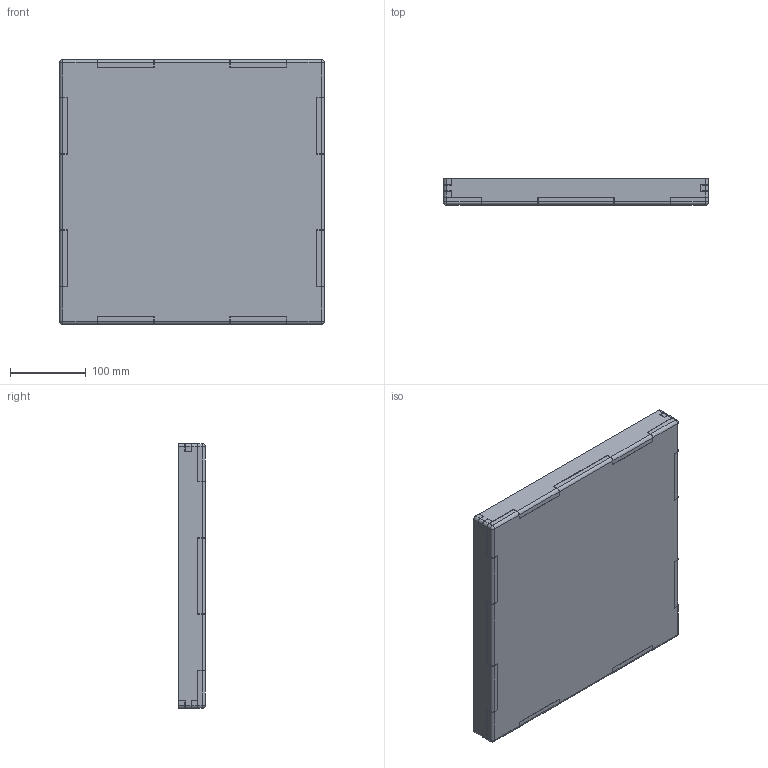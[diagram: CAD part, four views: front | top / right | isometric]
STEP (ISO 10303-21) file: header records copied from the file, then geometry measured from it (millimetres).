
FILE_DESCRIPTION (( 'STEP AP214' ), '1' );
FILE_NAME ('Ensamblaje Bandeja.STEP', '2020-11-28T16:15:50', ( '' ), ( '' ), 'SwSTEP 2.0', 'SolidWorks 2016', '' );
FILE_SCHEMA (( 'AUTOMOTIVE_DESIGN' ));
Length unit declared in the file: millimetre
Products named in the file (3): Lateral; Base; Ensamblaje Bandeja
Assembly tree (5 placements, depth 2):
  Ensamblaje Bandeja
    Base
    Lateral  x4
Bounding box: 350 x 35.01 x 350 mm (x, y, z)
Volume: 1559725.2 mm3; surface area: 357932.1 mm2
Topology: 5 solids, 5 shells, 310 faces, 760 edges, 456 vertices
Faces by surface type: cylinder 144, plane 126, torus 36, sphere 4
Entity records: 3709 total; most frequent: CARTESIAN_POINT 669, DIRECTION 624, ORIENTED_EDGE 612, EDGE_CURVE 306, LINE 216, VECTOR 216, AXIS2_PLACEMENT_3D 204, VERTEX_POINT 189
